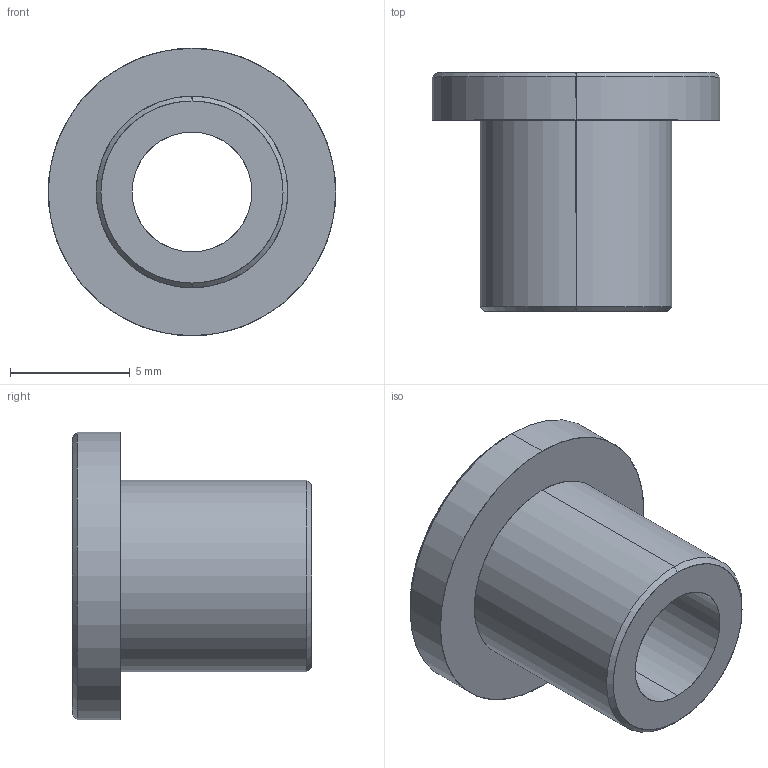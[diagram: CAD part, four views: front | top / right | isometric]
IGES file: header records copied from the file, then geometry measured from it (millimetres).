
Start section: SolidWorks IGES file using analytic representation for surfaces
Global section: file name: C:\Documents and Settings\CAD53\デスクトップ\IGES\N01868-410-0.IGS; native system: SolidWorks 2005 by SolidWorks Corporation; preprocessor: SolidWorks 2005 by SolidWorks Corporation; author: CAD53; date: 070530.115753; units: millimetre
Bounding box: 12 x 10 x 12 mm (x, y, z)
Surface area: 613 mm2 (no closed solid volume)
Topology: 0 solids, 0 shells, 13 faces, 232 edges, 232 vertices
Faces by surface type: revolution 10, bspline 3
